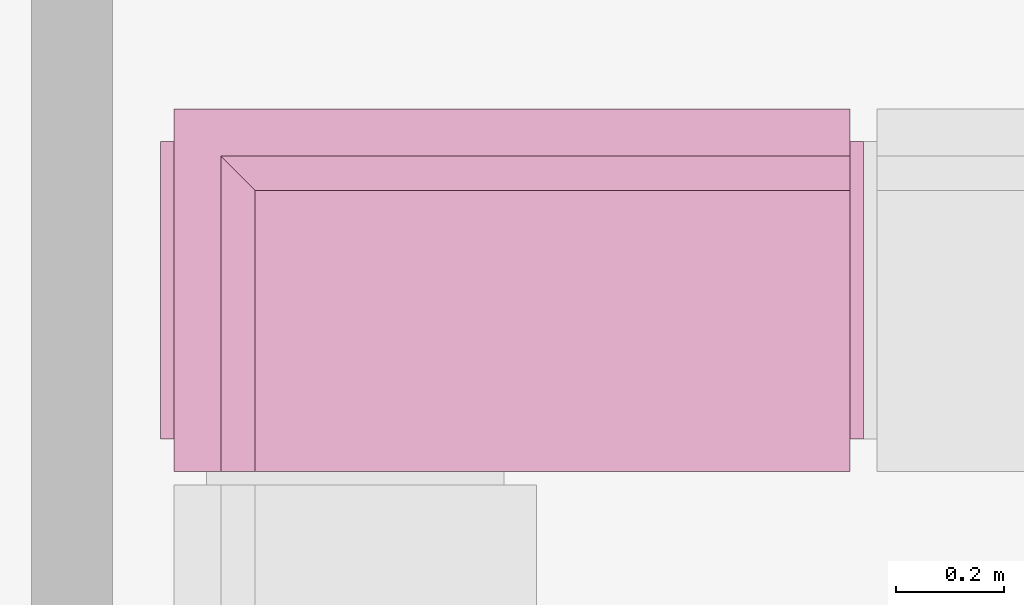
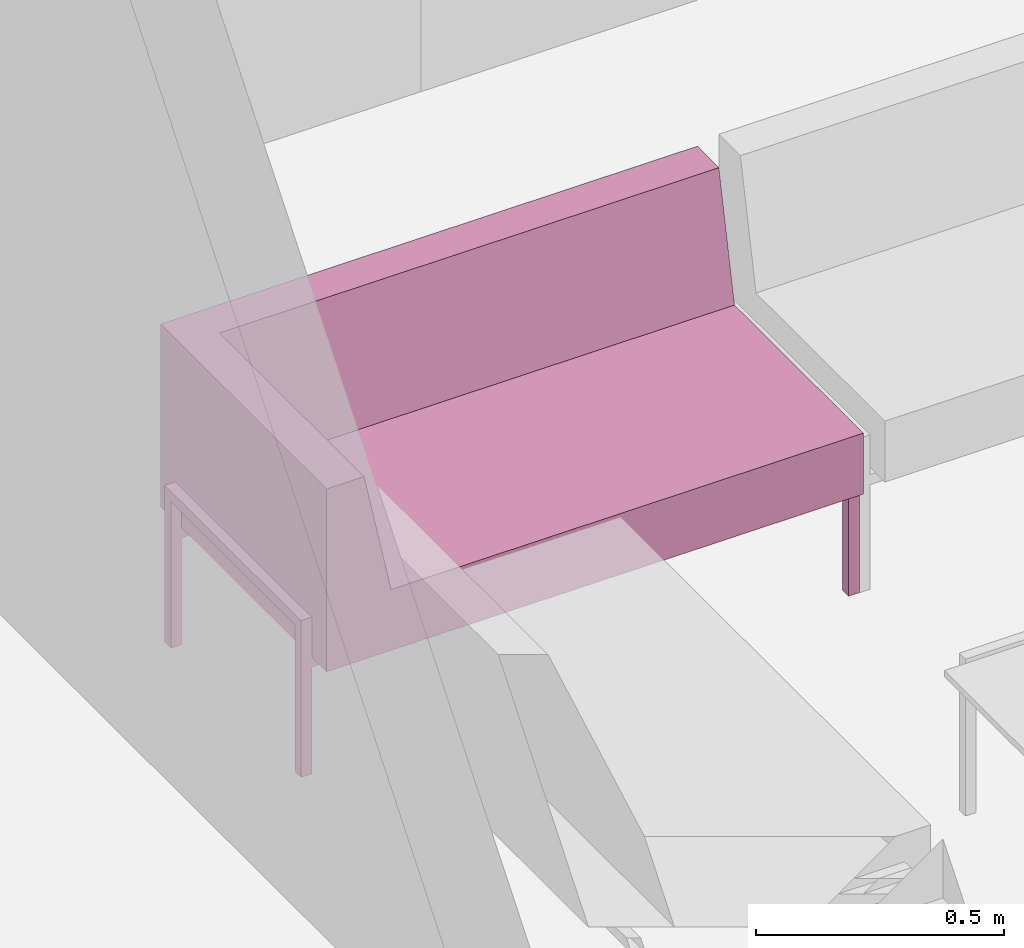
# One storey, part 21 of 23: 1 furnishing.
"""IFC2X3 building model written with IfcOpenShell, lengths in millimetres."""

from ifc_helpers import new_model, entity, si_unit, converted_unit, derived_unit, direction, frame, origin, place, context, subcontext, project, spatial, faceted_brep, source, transform, mapped, material, material_list, type_object, type_shapes, element, save


model = new_model("IFC2X3")

# Units and contexts
model_context = context("Model", 3, precision=0.01, world=origin(), true_north=direction((6.12303176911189e-17, 1.0)))
body_context = subcontext(model_context, "Body", "Model", "MODEL_VIEW")
ifc_project = project(units=[si_unit("LENGTHUNIT", "METRE", prefix="MILLI"), si_unit("AREAUNIT", "SQUARE_METRE"), si_unit("VOLUMEUNIT", "CUBIC_METRE"), converted_unit("PLANEANGLEUNIT", "DEGREE", entity("IfcRatioMeasure", 0.0174532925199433), si_unit("PLANEANGLEUNIT", "RADIAN"), dimensions=[0, 0, 0, 0, 0, 0, 0]), si_unit("MASSUNIT", "GRAM", prefix="KILO"), derived_unit("MASSDENSITYUNIT", [(si_unit("MASSUNIT", "GRAM", prefix="KILO"), 1), (si_unit("LENGTHUNIT", "METRE"), -3)]), si_unit("TIMEUNIT", "SECOND"), si_unit("FREQUENCYUNIT", "HERTZ"), si_unit("THERMODYNAMICTEMPERATUREUNIT", "DEGREE_CELSIUS"), derived_unit("THERMALTRANSMITTANCEUNIT", [(si_unit("MASSUNIT", "GRAM", prefix="KILO"), 1), (si_unit("THERMODYNAMICTEMPERATUREUNIT", "KELVIN"), -1), (si_unit("TIMEUNIT", "SECOND"), -3)]), derived_unit("VOLUMETRICFLOWRATEUNIT", [(si_unit("LENGTHUNIT", "METRE"), 3), (si_unit("TIMEUNIT", "SECOND"), -1)]), si_unit("ELECTRICCURRENTUNIT", "AMPERE"), si_unit("ELECTRICVOLTAGEUNIT", "VOLT"), si_unit("POWERUNIT", "WATT"), si_unit("FORCEUNIT", "NEWTON", prefix="KILO"), si_unit("ILLUMINANCEUNIT", "LUX"), si_unit("LUMINOUSFLUXUNIT", "LUMEN"), si_unit("LUMINOUSINTENSITYUNIT", "CANDELA"), derived_unit("USERDEFINED", [(si_unit("MASSUNIT", "GRAM", prefix="KILO"), -1), (si_unit("LENGTHUNIT", "METRE"), -2), (si_unit("TIMEUNIT", "SECOND"), 3), (si_unit("LUMINOUSFLUXUNIT", "LUMEN"), 1)]), derived_unit("LINEARVELOCITYUNIT", [(si_unit("LENGTHUNIT", "METRE"), 1), (si_unit("TIMEUNIT", "SECOND"), -1)]), si_unit("PRESSUREUNIT", "PASCAL"), derived_unit("USERDEFINED", [(si_unit("LENGTHUNIT", "METRE"), -2), (si_unit("MASSUNIT", "GRAM", prefix="KILO"), 1), (si_unit("TIMEUNIT", "SECOND"), -2)]), derived_unit("LINEARFORCEUNIT", [(si_unit("MASSUNIT", "GRAM", prefix="KILO"), 1), (si_unit("LENGTHUNIT", "METRE"), 1), (si_unit("TIMEUNIT", "SECOND"), -2), (si_unit("LENGTHUNIT", "METRE"), -1)]), derived_unit("PLANARFORCEUNIT", [(si_unit("MASSUNIT", "GRAM", prefix="KILO"), 1), (si_unit("LENGTHUNIT", "METRE"), 1), (si_unit("TIMEUNIT", "SECOND"), -2), (si_unit("LENGTHUNIT", "METRE"), -2)])], contexts=[model_context])

# Site, building, storey, space
site_placement = place(None, origin())
site = spatial("IfcSite", under=ifc_project, at=site_placement, Name="Default", CompositionType="ELEMENT")
building_placement = place(site_placement, origin())
building = spatial("IfcBuilding", under=site, at=building_placement, Name="SMA ARH", CompositionType="ELEMENT")
storey_placement = place(building_placement, frame((0.0, 0.0, -2800.0)))
storey = spatial("IfcBuildingStorey", under=building, at=storey_placement, Name="0 Sokkel", CompositionType="ELEMENT", Elevation=-2800.0)
space_placement = place(storey_placement, origin())
space = spatial("IfcSpace", under=storey, at=space_placement, Name="0-2", CompositionType="ELEMENT", InteriorOrExteriorSpace="INTERNAL")

# Furnishing
ifc_material_1 = material(Name="__Aknaraam")
ifc_material_2 = material(Name="__Metall 1")
ifc_material_3 = material(Name="+ Melamiin hall")
ifc_material_list = material_list([ifc_material_1, ifc_material_2, ifc_material_3])
furniture_type = type_object("IfcFurnitureType", Name="zeeta.2A:zeeta.2A", material=ifc_material_list)
shared_shape = source(origin(), body_context, "Body", "Brep", [
    faceted_brep([(1300.0, 60.0, 386.0), (1275.0, 60.0, 386.0), (1275.0, 60.0, 6.0), (1300.0, 60.0, 6.0), (1300.0, 610.0, 386.0), (1275.0, 610.0, 386.0), (1300.0, 610.0, 6.0), (1275.0, 610.0, 6.0), (1300.0, 585.0, 6.0), (1275.0, 585.0, 6.0), (1300.0, 585.0, 361.0), (1275.0, 585.0, 361.0), (1300.0, 85.0, 361.0), (1275.0, 85.0, 361.0), (1300.0, 85.0, 6.0), (1275.0, 85.0, 6.0)], [[[0, 1, 2, 3]], [[4, 5, 1, 0]], [[6, 7, 5, 4]], [[8, 9, 7, 6]], [[10, 11, 9, 8]], [[12, 13, 11, 10]], [[14, 15, 13, 12]], [[3, 2, 15, 14]], [[14, 12, 10, 8, 6, 4, 0, 3]], [[2, 1, 5, 7, 9, 11, 13, 15]]]),
    faceted_brep([(0.0, 60.0, 6.0), (25.0, 60.0, 6.0), (25.0, 60.0, 386.0), (0.0, 60.0, 386.0), (25.0, 610.0, 386.0), (0.0, 610.0, 386.0), (25.0, 610.0, 6.0), (0.0, 610.0, 6.0), (25.0, 585.0, 6.0), (0.0, 585.0, 6.0), (25.0, 585.0, 361.0), (0.0, 585.0, 361.0), (25.0, 85.0, 361.0), (0.0, 85.0, 361.0), (25.0, 85.0, 6.0), (0.0, 85.0, 6.0)], [[[0, 1, 2, 3]], [[3, 2, 4, 5]], [[5, 4, 6, 7]], [[7, 6, 8, 9]], [[9, 8, 10, 11]], [[11, 10, 12, 13]], [[13, 12, 14, 15]], [[15, 14, 1, 0]], [[0, 3, 5, 7, 9, 11, 13, 15]], [[14, 12, 10, 8, 6, 4, 2, 1]]]),
    faceted_brep([(25.0, 585.0, 263.0), (25.0, 585.0, 288.0), (25.0, 610.0, 288.0), (25.0, 610.0, 263.0), (1275.0, 585.0, 263.0), (1275.0, 585.0, 288.0), (1275.0, 610.0, 263.0), (1275.0, 610.0, 288.0)], [[[0, 1, 2, 3]], [[4, 5, 1, 0]], [[6, 7, 5, 4]], [[3, 2, 7, 6]], [[6, 4, 0, 3]], [[2, 1, 5, 7]]]),
    faceted_brep([(25.0, 60.0, 263.0), (25.0, 60.0, 288.0), (25.0, 85.0, 288.0), (25.0, 85.0, 263.0), (1275.0, 85.0, 288.0), (1275.0, 85.0, 263.0), (1275.0, 60.0, 288.0), (1275.0, 60.0, 263.0)], [[[0, 1, 2, 3]], [[3, 2, 4, 5]], [[5, 4, 6, 7]], [[7, 6, 1, 0]], [[0, 3, 5, 7]], [[6, 4, 2, 1]]]),
    faceted_brep([(637.5, 85.0, 263.0), (637.5, 85.0, 288.0), (637.5, 585.0, 288.0), (637.5, 585.0, 263.0), (662.5, 85.0, 263.0), (662.5, 85.0, 288.0), (662.5, 585.0, 263.0), (662.5, 585.0, 288.0)], [[[0, 1, 2, 3]], [[4, 5, 1, 0]], [[6, 7, 5, 4]], [[3, 2, 7, 6]], [[6, 4, 0, 3]], [[2, 1, 5, 7]]]),
    faceted_brep([(1188.0, 670.0, 738.0), (1188.0, 87.0, 738.0), (1275.0, 0.0, 738.0), (1275.0, 670.0, 738.0), (1125.0, 150.0, 438.0), (1125.0, 670.0, 438.0), (1275.0, 0.0, 288.0), (1275.0, 670.0, 288.0), (1125.0, 150.0, 288.0), (1125.0, 670.0, 288.0)], [[[0, 1, 2, 3]], [[4, 1, 0, 5]], [[6, 7, 3, 2]], [[8, 6, 2, 1, 4]], [[5, 9, 8, 4]], [[7, 9, 5, 0, 3]], [[7, 6, 8, 9]]]),
    faceted_brep([(25.0, 0.0, 738.0), (1275.0, 0.0, 738.0), (1188.0, 87.0, 738.0), (25.0, 87.0, 738.0), (25.0, 150.0, 438.0), (1125.0, 150.0, 438.0), (25.0, 0.0, 288.0), (1275.0, 0.0, 288.0), (1125.0, 150.0, 288.0), (25.0, 150.0, 288.0)], [[[0, 1, 2, 3]], [[4, 3, 2, 5]], [[1, 0, 6, 7]], [[5, 2, 1, 7, 8]], [[5, 8, 9, 4]], [[0, 3, 4, 9, 6]], [[9, 8, 7, 6]]]),
    faceted_brep([(25.0, 150.0, 288.0), (25.0, 150.0, 438.0), (25.0, 670.0, 438.0), (25.0, 670.0, 288.0), (1125.0, 150.0, 288.0), (1125.0, 150.0, 438.0), (1125.0, 670.0, 288.0), (1125.0, 670.0, 438.0)], [[[0, 1, 2, 3]], [[4, 5, 1, 0]], [[6, 7, 5, 4]], [[3, 2, 7, 6]], [[6, 4, 0, 3]], [[2, 1, 5, 7]]]),
    faceted_brep([(1275.0, 585.0, 0.0), (1275.0, 585.0, 6.0), (1275.0, 610.0, 6.0), (1275.0, 610.0, 0.0), (1300.0, 585.0, 0.0), (1300.0, 585.0, 6.0), (1300.0, 610.0, 0.0), (1300.0, 610.0, 6.0)], [[[0, 1, 2, 3]], [[4, 5, 1, 0]], [[6, 7, 5, 4]], [[3, 2, 7, 6]], [[6, 4, 0, 3]], [[2, 1, 5, 7]]]),
    faceted_brep([(1275.0, 60.0, 0.0), (1275.0, 60.0, 6.0), (1275.0, 85.0, 6.0), (1275.0, 85.0, 0.0), (1300.0, 60.0, 0.0), (1300.0, 60.0, 6.0), (1300.0, 85.0, 0.0), (1300.0, 85.0, 6.0)], [[[0, 1, 2, 3]], [[4, 5, 1, 0]], [[6, 7, 5, 4]], [[3, 2, 7, 6]], [[6, 4, 0, 3]], [[2, 1, 5, 7]]]),
    faceted_brep([(0.0, 610.0, 6.0), (0.0, 610.0, 0.0), (0.0, 585.0, 0.0), (0.0, 585.0, 6.0), (25.0, 585.0, 0.0), (25.0, 585.0, 6.0), (25.0, 610.0, 0.0), (25.0, 610.0, 6.0)], [[[0, 1, 2, 3]], [[3, 2, 4, 5]], [[5, 4, 6, 7]], [[7, 6, 1, 0]], [[3, 5, 7, 0]], [[6, 4, 2, 1]]]),
    faceted_brep([(0.0, 60.0, 0.0), (0.0, 60.0, 6.0), (0.0, 85.0, 6.0), (0.0, 85.0, 0.0), (25.0, 60.0, 0.0), (25.0, 60.0, 6.0), (25.0, 85.0, 0.0), (25.0, 85.0, 6.0)], [[[0, 1, 2, 3]], [[4, 5, 1, 0]], [[6, 7, 5, 4]], [[3, 2, 7, 6]], [[6, 4, 0, 3]], [[2, 1, 5, 7]]]),
])
type_shapes(furniture_type, [shared_shape])
furnishing_placement = place(space_placement, frame((23899.1644756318, 4652.30878841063, -1.27383282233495e-06), z_axis=(0.0, 0.0, 1.0), x_axis=(-1.0, 0.0, 0.0)))
element("IfcFurnishingElement", 1, at=furnishing_placement, inside=space, type_object=furniture_type, Name="zeeta.2A:zeeta.2A", ObjectType="zeeta.2A:zeeta.2A", context=body_context, shape_type="MappedRepresentation", body=[
    mapped(shared_shape, transform((0.0, 0.0, 0.0), scale=1.0)),
])

save(model, "model.ifc")
